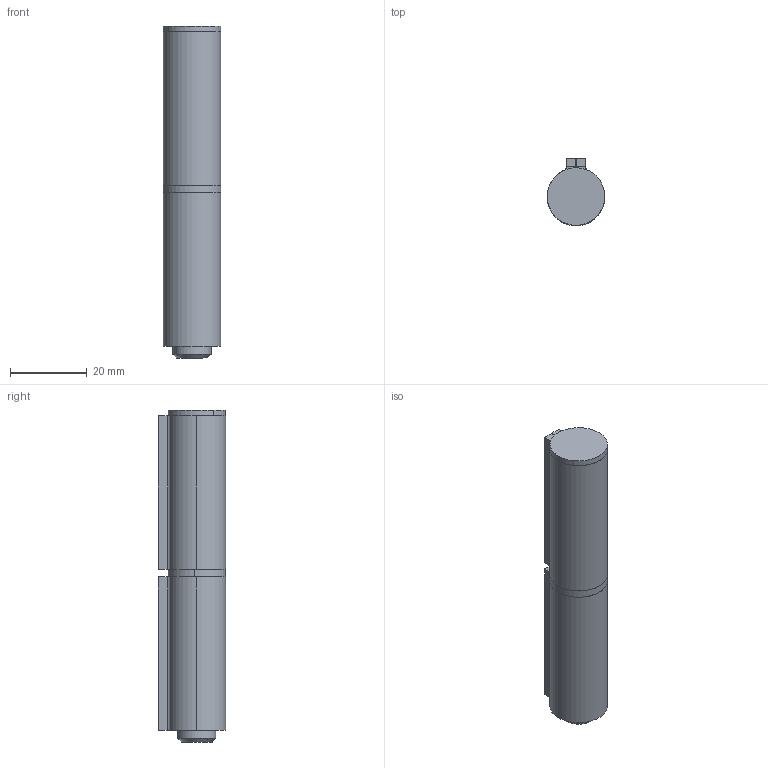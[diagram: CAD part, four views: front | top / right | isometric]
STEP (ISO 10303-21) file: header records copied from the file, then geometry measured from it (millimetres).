
FILE_DESCRIPTION (( 'STEP AP203' ), '1' );
FILE_NAME ('5.V32.124_01-00.STEP', '2025-03-25T08:30:02', ( '' ), ( '' ), 'SwSTEP 2.0', 'SolidWorks 2021', '' );
FILE_SCHEMA (( 'CONFIG_CONTROL_DESIGN' ));
Length unit declared in the file: millimetre
Products named in the file (4): P.041286_00-00; P.041287_01-01; P.040986_01-00; 5.V32.124_01-00
Assembly tree (4 placements, depth 2):
  5.V32.124_01-00
    P.040986_01-00  x2
    P.041286_00-00
    P.041287_01-01
Bounding box: 15 x 17.5 x 86.5 mm (x, y, z)
Volume: 15833 mm3; surface area: 11232.2 mm2
Topology: 4 solids, 4 shells, 67 faces, 140 edges, 82 vertices
Faces by surface type: plane 37, cylinder 28, cone 2
Entity records: 1522 total; most frequent: DIRECTION 218, CARTESIAN_POINT 182, ORIENTED_EDGE 168, AXIS2_PLACEMENT_3D 86, EDGE_CURVE 84, VERTEX_POINT 50, VECTOR 46, LINE 46
